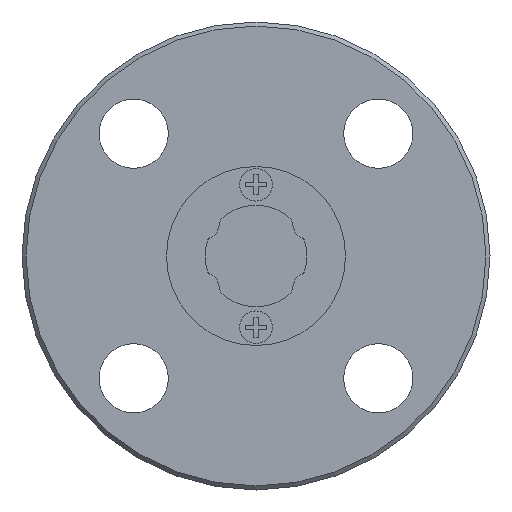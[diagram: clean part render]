
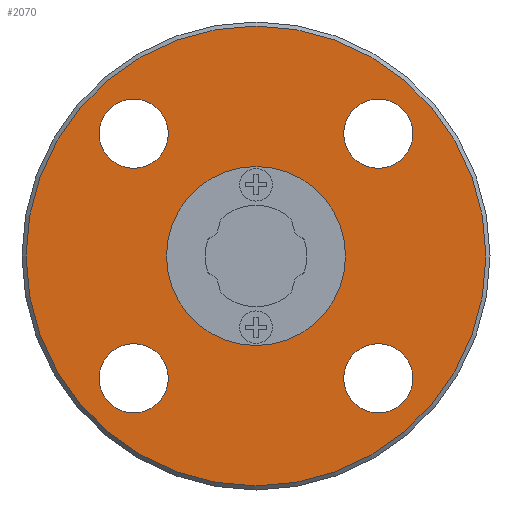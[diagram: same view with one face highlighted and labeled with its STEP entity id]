
A CAD part, left-side view. The second image highlights one B-rep face of the part: STEP entity #2070.
In plain terms, the highlighted planar face has unit normal (-1, 0, 0).
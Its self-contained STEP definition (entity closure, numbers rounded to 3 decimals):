
#44=PLANE('',#2290);
#699=ORIENTED_EDGE('',*,*,#1224,.F.);
#700=ORIENTED_EDGE('',*,*,#1225,.T.);
#701=ORIENTED_EDGE('',*,*,#1226,.T.);
#702=ORIENTED_EDGE('',*,*,#1227,.T.);
#703=ORIENTED_EDGE('',*,*,#1228,.T.);
#704=ORIENTED_EDGE('',*,*,#1223,.T.);
#1223=EDGE_CURVE('',#1496,#1496,#1661,.T.);
#1224=EDGE_CURVE('',#1497,#1497,#1662,.T.);
#1225=EDGE_CURVE('',#1498,#1498,#1663,.T.);
#1226=EDGE_CURVE('',#1499,#1499,#1664,.T.);
#1227=EDGE_CURVE('',#1500,#1500,#1665,.T.);
#1228=EDGE_CURVE('',#1501,#1501,#1666,.T.);
#1496=VERTEX_POINT('',#3310);
#1497=VERTEX_POINT('',#3313);
#1498=VERTEX_POINT('',#3315);
#1499=VERTEX_POINT('',#3317);
#1500=VERTEX_POINT('',#3319);
#1501=VERTEX_POINT('',#3321);
#1661=CIRCLE('',#2289,4.4);
#1662=CIRCLE('',#2291,11.3);
#1663=CIRCLE('',#2292,1.7);
#1664=CIRCLE('',#2293,1.7);
#1665=CIRCLE('',#2294,1.7);
#1666=CIRCLE('',#2295,1.7);
#1718=EDGE_LOOP('',(#699));
#1719=EDGE_LOOP('',(#700));
#1720=EDGE_LOOP('',(#701));
#1721=EDGE_LOOP('',(#702));
#1722=EDGE_LOOP('',(#703));
#1723=EDGE_LOOP('',(#704));
#1876=FACE_BOUND('',#1718,.T.);
#1877=FACE_BOUND('',#1719,.T.);
#1878=FACE_BOUND('',#1720,.T.);
#1879=FACE_BOUND('',#1721,.T.);
#1880=FACE_BOUND('',#1722,.T.);
#1881=FACE_BOUND('',#1723,.T.);
#2070=ADVANCED_FACE('',(#1876,#1877,#1878,#1879,#1880,#1881),#44,.F.);
#2289=AXIS2_PLACEMENT_3D('',#3309,#2666,#2667);
#2290=AXIS2_PLACEMENT_3D('',#3311,#2668,#2669);
#2291=AXIS2_PLACEMENT_3D('',#3312,#2670,#2671);
#2292=AXIS2_PLACEMENT_3D('',#3314,#2672,#2673);
#2293=AXIS2_PLACEMENT_3D('',#3316,#2674,#2675);
#2294=AXIS2_PLACEMENT_3D('',#3318,#2676,#2677);
#2295=AXIS2_PLACEMENT_3D('',#3320,#2678,#2679);
#2666=DIRECTION('',(1.,0.,0.));
#2667=DIRECTION('',(0.,0.,-1.));
#2668=DIRECTION('',(1.,0.,0.));
#2669=DIRECTION('',(0.,0.,-1.));
#2670=DIRECTION('',(1.,0.,0.));
#2671=DIRECTION('',(0.,0.,-1.));
#2672=DIRECTION('',(1.,0.,0.));
#2673=DIRECTION('',(0.,0.,-1.));
#2674=DIRECTION('',(1.,0.,0.));
#2675=DIRECTION('',(0.,0.,-1.));
#2676=DIRECTION('',(1.,0.,0.));
#2677=DIRECTION('',(0.,0.,-1.));
#2678=DIRECTION('',(1.,0.,0.));
#2679=DIRECTION('',(0.,0.,-1.));
#3309=CARTESIAN_POINT('',(-3.65,0.,0.));
#3310=CARTESIAN_POINT('',(-3.65,0.,-4.4));
#3311=CARTESIAN_POINT('',(-3.65,4.4,0.));
#3312=CARTESIAN_POINT('',(-3.65,0.,0.));
#3313=CARTESIAN_POINT('',(-3.65,0.,-11.3));
#3314=CARTESIAN_POINT('',(-3.65,-6.01,6.01));
#3315=CARTESIAN_POINT('',(-3.65,-6.01,4.31));
#3316=CARTESIAN_POINT('',(-3.65,-6.01,-6.01));
#3317=CARTESIAN_POINT('',(-3.65,-6.01,-7.71));
#3318=CARTESIAN_POINT('',(-3.65,6.01,-6.01));
#3319=CARTESIAN_POINT('',(-3.65,6.01,-7.71));
#3320=CARTESIAN_POINT('',(-3.65,6.01,6.01));
#3321=CARTESIAN_POINT('',(-3.65,6.01,4.31));
